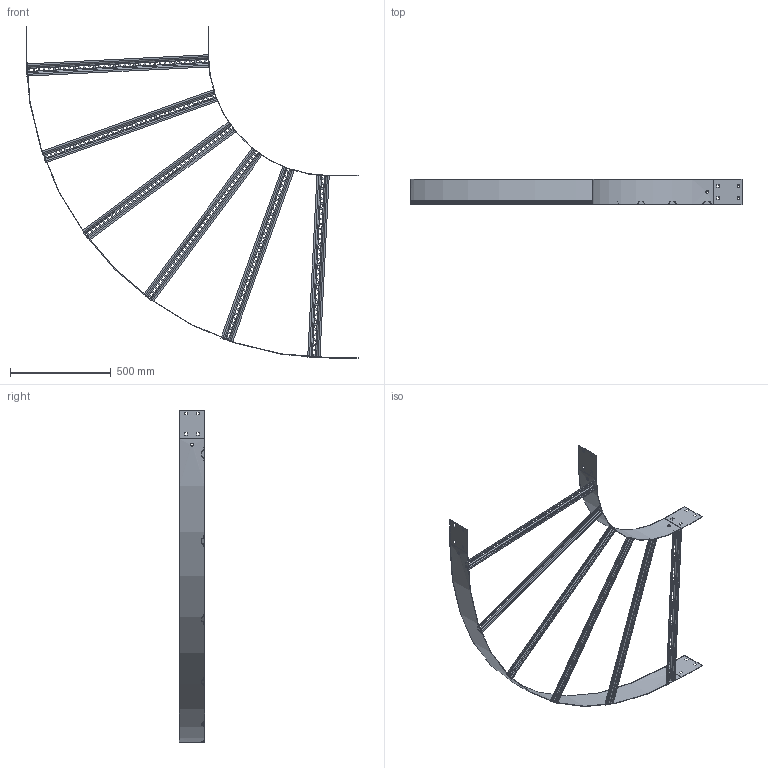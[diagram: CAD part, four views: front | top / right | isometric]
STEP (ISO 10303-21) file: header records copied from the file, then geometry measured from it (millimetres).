
FILE_DESCRIPTION (( 'STEP AP203' ), '1' );
FILE_NAME ('N3 B 9006.STEP', '2021-06-10T21:10:56', ( '' ), ( '' ), 'SwSTEP 2.0', 'SolidWorks 2020', '' );
FILE_SCHEMA (( 'CONFIG_CONTROL_DESIGN' ));
Length unit declared in the file: millimetre
Products named in the file (4): N3 B 9006; N3 RADIUS PLATE_N1-1500; N3 RADIUS PLATE_N1-600 IR; Ladder Rung_Ladder Rung -  900mm
Assembly tree (8 placements, depth 2):
  N3 B 9006
    N3 RADIUS PLATE_N1-600 IR
    N3 RADIUS PLATE_N1-1500
    Ladder Rung_Ladder Rung -  900mm  x6
Bounding box: 1644.5 x 124 x 1644.5 mm (x, y, z)
Volume: 1529738.3 mm3; surface area: 1730638.1 mm2
Topology: 8 solids, 8 shells, 1216 faces, 3392 edges, 2192 vertices
Faces by surface type: plane 1156, cylinder 60
Entity records: 10346 total; most frequent: CARTESIAN_POINT 2289, ORIENTED_EDGE 1584, DIRECTION 1394, EDGE_CURVE 792, VECTOR 752, LINE 752, VERTEX_POINT 512, EDGE_LOOP 396
